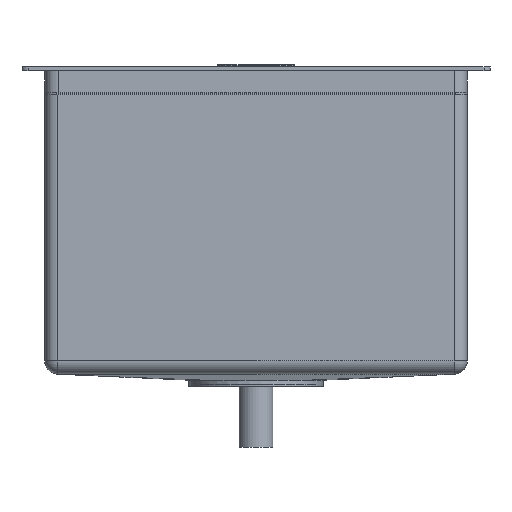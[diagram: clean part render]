
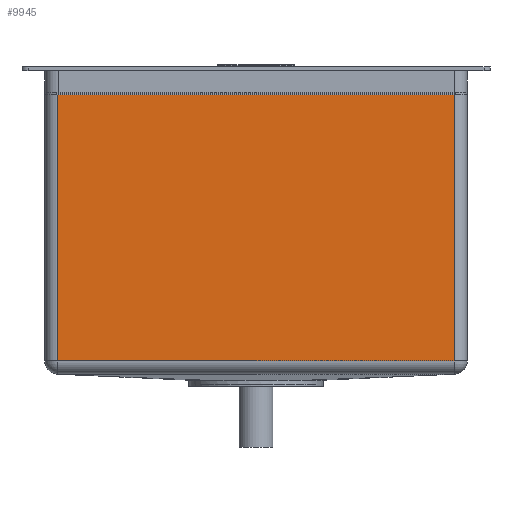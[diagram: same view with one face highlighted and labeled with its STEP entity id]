
A CAD part, front view. The second image highlights one B-rep face of the part: STEP entity #9945.
In plain terms, the highlighted planar face has unit normal (0, -1, 0).
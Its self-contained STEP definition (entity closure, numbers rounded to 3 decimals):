
#1110=PLANE('',#10717);
#1686=FACE_OUTER_BOUND('',#2322,.T.);
#2322=EDGE_LOOP('',(#9094,#9095,#9096,#9097));
#3122=LINE('',#19710,#3938);
#3155=LINE('',#19799,#3971);
#3156=LINE('',#19802,#3972);
#3157=LINE('',#19803,#3973);
#3938=VECTOR('',#12745,10.);
#3971=VECTOR('',#12842,10.);
#3972=VECTOR('',#12847,10.);
#3973=VECTOR('',#12848,10.);
#4977=VERTEX_POINT('',#19704);
#4979=VERTEX_POINT('',#19708);
#5002=VERTEX_POINT('',#19796);
#5003=VERTEX_POINT('',#19798);
#6336=EDGE_CURVE('',#4977,#4979,#3122,.T.);
#6382=EDGE_CURVE('',#5002,#5003,#3155,.T.);
#6384=EDGE_CURVE('',#4977,#5002,#3156,.T.);
#6385=EDGE_CURVE('',#5003,#4979,#3157,.T.);
#9094=ORIENTED_EDGE('',*,*,#6384,.F.);
#9095=ORIENTED_EDGE('',*,*,#6336,.T.);
#9096=ORIENTED_EDGE('',*,*,#6385,.F.);
#9097=ORIENTED_EDGE('',*,*,#6382,.F.);
#9945=ADVANCED_FACE('',(#1686),#1110,.T.);
#10717=AXIS2_PLACEMENT_3D('',#19801,#12845,#12846);
#12745=DIRECTION('',(0.,0.,-1.));
#12842=DIRECTION('',(0.,0.,-1.));
#12845=DIRECTION('center_axis',(0.,-1.,0.));
#12846=DIRECTION('ref_axis',(-1.,0.,0.));
#12847=DIRECTION('',(1.,0.,0.));
#12848=DIRECTION('',(-1.,0.,0.));
#19704=CARTESIAN_POINT('',(30.,32.,-23.));
#19708=CARTESIAN_POINT('',(30.,32.,-245.));
#19710=CARTESIAN_POINT('',(30.,32.,-22.));
#19796=CARTESIAN_POINT('',(360.,32.,-23.));
#19798=CARTESIAN_POINT('',(360.,32.,-245.));
#19799=CARTESIAN_POINT('',(360.,32.,-22.));
#19801=CARTESIAN_POINT('Origin',(360.,32.,-22.));
#19802=CARTESIAN_POINT('',(277.5,32.,-23.));
#19803=CARTESIAN_POINT('',(360.,32.,-245.));
